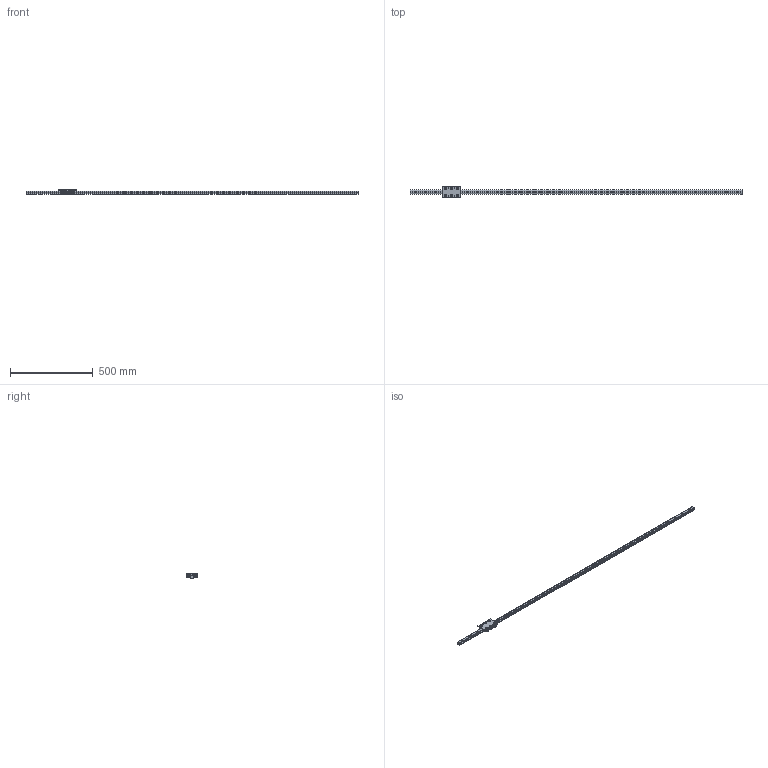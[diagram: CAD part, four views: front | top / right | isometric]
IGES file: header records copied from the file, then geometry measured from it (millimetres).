
Global section: file name: No Iges File Name specified; native system: AutoDesk Inventor R11.0; preprocessor: AutoDesk Inventor Iges Exporter R11.0; author: No Author specified; organization: No Organization specified; date: 20170718.164910; units: millimetre
Bounding box: 2000 x 65 x 25 mm (x, y, z)
Surface area: 199902.6 mm2 (no closed solid volume)
Topology: 0 solids, 0 shells, 443 faces, 2870 edges, 2870 vertices
Faces by surface type: bspline 443
